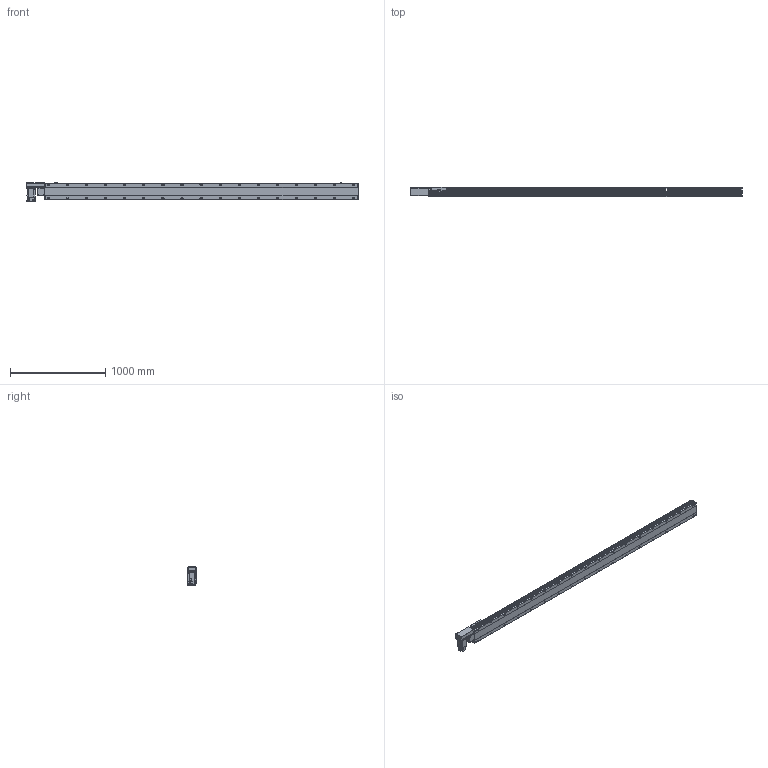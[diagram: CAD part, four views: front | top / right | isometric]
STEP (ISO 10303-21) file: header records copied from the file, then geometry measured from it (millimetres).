
FILE_DESCRIPTION( ( 'STEP AP214' ), '1' );
FILE_NAME( 'x:/temp/worker_4/temp/exporttempdir_2248_301_hXX1N/format_0/PBS170-P40-S3000-R-T75-C1-N(0).stp', '2022-06-07T07:33:24', ( 'License CC BY-ND 4.0' ), ( 'CADENAS' ), ' ', 'PARTsolutions', ' ' );
FILE_SCHEMA( ( 'AUTOMOTIVE_DESIGN { 1 0 10303 214 1 1 1 1 }' ) );
Length unit declared in the file: millimetre
Products named in the file (7): PBS170-P40-S3000-R-T75-C1-N(0); _PBS170-S3000()_body; _PBS170T-R_motors; _T75-p1; _PBS170_sliser; _PBS170_plant; _PBS170_sensor
Assembly tree (8 placements, depth 2):
  PBS170-P40-S3000-R-T75-C1-N(0)
    _PBS170-S3000()_body
    _PBS170T-R_motors
    _T75-p1
    _PBS170_sliser
    _PBS170_plant
    _PBS170_sensor  x3
Bounding box: 3478 x 97 x 205.3 mm (x, y, z)
Volume: 25243265.2 mm3; surface area: 3158626.8 mm2
Topology: 8 solids, 8 shells, 1226 faces, 3235 edges, 2108 vertices
Faces by surface type: plane 741, cylinder 411, cone 64, sphere 8, torus 2
Full cylindrical faces by diameter (mm): 3.242 x4, 4 x2, 4.4 x4, 4.5 x6, 4.917 x4, 6 x9, 6.647 x42, 7 x2, 7.5 x4, 8 x8, 8.5 x34, 10 x4, 10.5 x34, 11 x2, 30 x2, 40 x1, 70 x1
Entity records: 45518 total; most frequent: CARTESIAN_POINT 7733, DIRECTION 5930, ORIENTED_EDGE 5568, EDGE_CURVE 2784, AXIS2_PLACEMENT_3D 2107, VERTEX_POINT 1946, LINE 1716, VECTOR 1716
